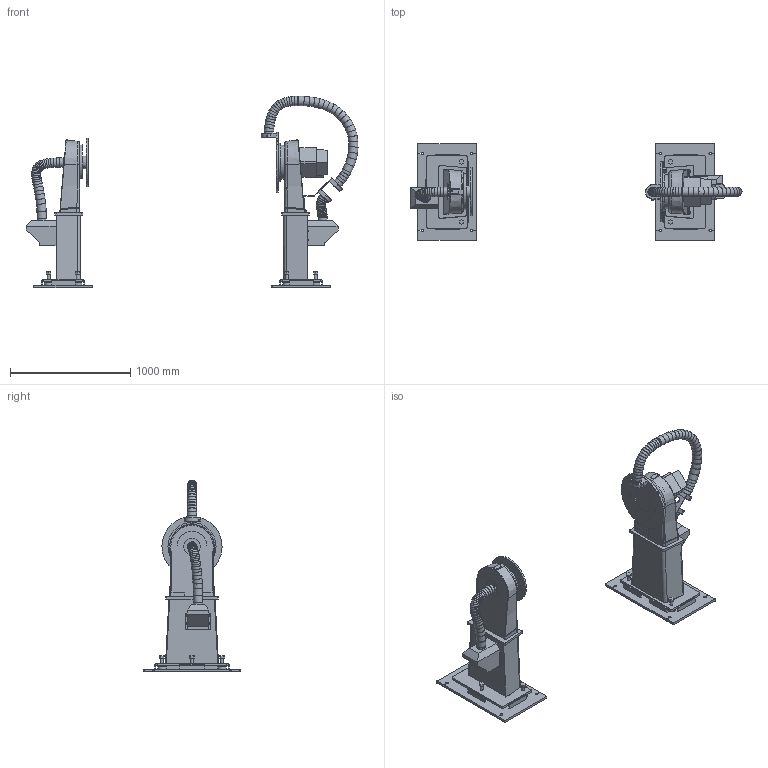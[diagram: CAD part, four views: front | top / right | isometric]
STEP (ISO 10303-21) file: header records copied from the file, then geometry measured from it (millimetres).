
FILE_DESCRIPTION(/* description */ (''),/* implementation_level */ '2;1');
FILE_NAME(/* name */ 'KP1-HC1000 R1000-2_with ES.stp',/* time_stamp */ '2021-06-30T09:54:10+02:00',/* author */ (''),/* organization */ (''),/* preprocessor_version */ 'ST-DEVELOPER v16.7',/* originating_system */ 'SIEMENS PLM Software NX 12.0',/* authorisation */ '');
FILE_SCHEMA (('AUTOMOTIVE_DESIGN { 1 0 10303 214 3 1 1 1 }'));
Length unit declared in the file: millimetre
Products named in the file (1): WOER67BC0785g8le
Bounding box: 2757.44 x 800 x 1589.29 mm (x, y, z)
Volume: 173324846.2 mm3; surface area: 9527174.4 mm2
Topology: 10 solids, 14 shells, 1298 faces, 3222 edges, 2072 vertices
Faces by surface type: plane 561, cylinder 378, torus 217, bspline 52, cone 51, extrusion 39
Full cylindrical faces by diameter (mm): 5 x8, 6 x8, 6.4 x8, 6.8 x15, 8 x10, 8.4 x2, 9 x2, 10 x8, 10.3 x15, 11.6 x1, 11.99 x2, 12 x10, 13 x2, 14 x16, 17 x2, 18 x8, 20 x4, 21 x6, 24 x6, 26 x8, 50 x1, 60 x2, 65 x3, 68 x2, 70 x10, 76.6 x6, 90 x3, 106 x1, 135 x1, 180 x1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
Entity records: 47622 total; most frequent: CARTESIAN_POINT 12401, DIRECTION 5841, ORIENTED_EDGE 5330, EDGE_CURVE 2665, AXIS2_PLACEMENT_3D 2288, VERTEX_POINT 1946, EDGE_LOOP 1903, ADVANCED_FACE 1295
